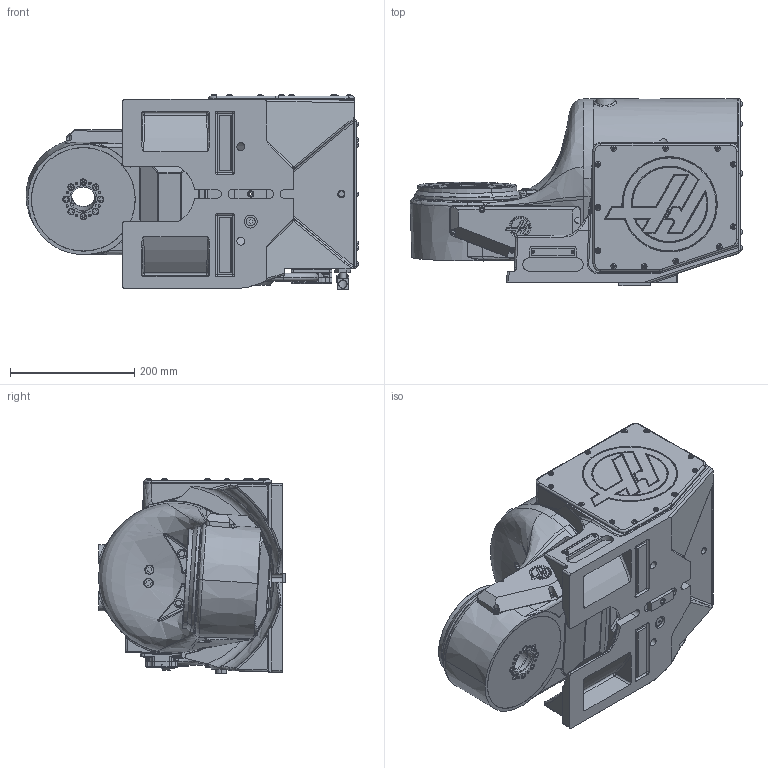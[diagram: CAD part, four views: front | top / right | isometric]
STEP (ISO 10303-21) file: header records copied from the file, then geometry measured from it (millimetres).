
FILE_DESCRIPTION (( 'STEP AP214' ), '1' );
FILE_NAME ('TRT160.STEP', '2018-09-19T15:30:52', ( '' ), ( '' ), 'SwSTEP 2.0', 'SolidWorks 2017', '' );
FILE_SCHEMA (( 'AUTOMOTIVE_DESIGN' ));
Length unit declared in the file: inch
Products named in the file (4): 10000106344; 10000106345; 10000106343_37-4188; TRT160
Assembly tree (3 placements, depth 2):
  TRT160
    10000106343_37-4188
    10000106345
    10000106344
Bounding box: 535.28 x 302.58 x 314.25 mm (x, y, z)
Surface area: 1086219.3 mm2 (no closed solid volume)
Topology: 0 solids, 182 shells, 2701 faces, 8539 edges, 5849 vertices
Faces by surface type: plane 985, cylinder 873, cone 290, torus 263, bspline 215, sphere 75
Entity records: 147407 total; most frequent: CARTESIAN_POINT 39179, DIRECTION 15267, ORIENTED_EDGE 14052, EDGE_CURVE 8510, VERTEX_POINT 5845, AXIS2_PLACEMENT_3D 5762, VECTOR 3743, LINE 3743
